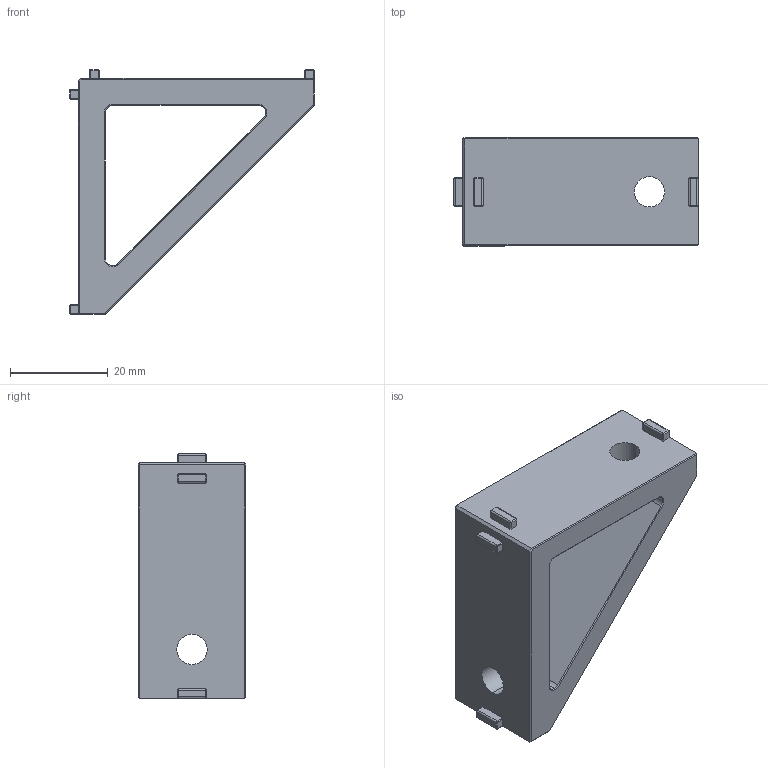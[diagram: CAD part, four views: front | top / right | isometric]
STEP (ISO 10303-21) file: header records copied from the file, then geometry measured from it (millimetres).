
FILE_DESCRIPTION (( 'STEP AP203' ), '1' );
FILE_NAME ('SMBD3-4040（新款）.STEP', '2023-10-12T07:56:15', ( '微软用户' ), ( '微软中国' ), 'SwSTEP 2.0', 'SolidWorks 2019', '' );
FILE_SCHEMA (( 'CONFIG_CONTROL_DESIGN' ));
Length unit declared in the file: millimetre
Products named in the file (1): SMBD3-4040（新款）
Bounding box: 50 x 22 x 50 mm (x, y, z)
Volume: 16034.4 mm3; surface area: 8010.7 mm2
Topology: 1 solids, 1 shells, 127 faces, 310 edges, 185 vertices
Faces by surface type: plane 71, cone 27, cylinder 25, bspline 4
Entity records: 5712 total; most frequent: CARTESIAN_POINT 2667, ORIENTED_EDGE 620, DIRECTION 603, EDGE_CURVE 310, LINE 221, VECTOR 221, AXIS2_PLACEMENT_3D 191, VERTEX_POINT 185
